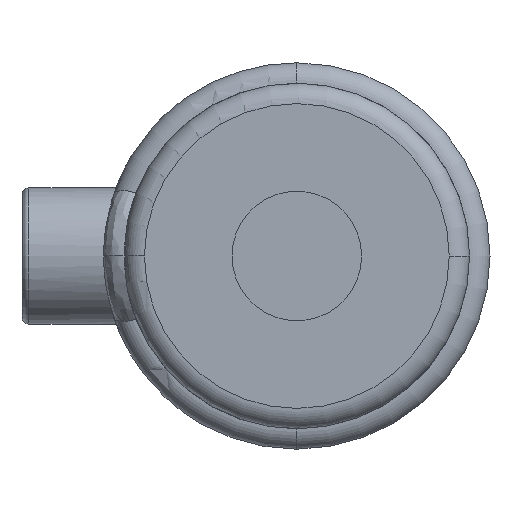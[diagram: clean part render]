
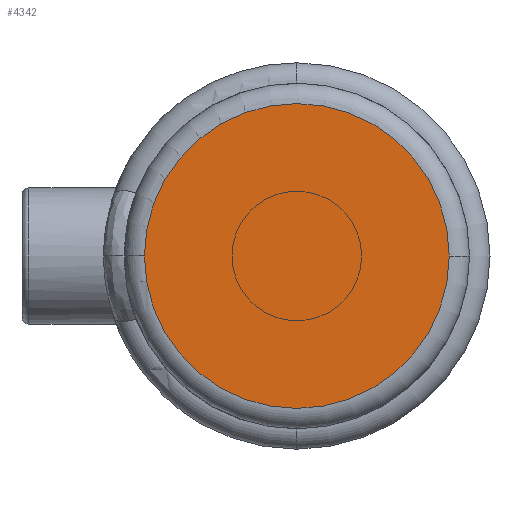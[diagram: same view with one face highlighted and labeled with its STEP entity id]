
A CAD part, left-side view. The second image highlights one B-rep face of the part: STEP entity #4342.
In plain terms, the highlighted planar face has unit normal (-1, 0, 0).
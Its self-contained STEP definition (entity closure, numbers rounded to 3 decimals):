
#144 = EDGE_LOOP ( 'NONE', ( #3143, #1036 ) ) ;
#213 = DIRECTION ( 'NONE',  ( -1., 0., 0. ) ) ;
#977 = EDGE_CURVE ( 'NONE', #4215, #3683, #2303, .T. ) ;
#1036 = ORIENTED_EDGE ( 'NONE', *, *, #977, .T. ) ;
#1313 = CARTESIAN_POINT ( 'NONE',  ( 0., 0., 0. ) ) ;
#1387 = CARTESIAN_POINT ( 'NONE',  ( 0., 0., 0. ) ) ;
#1645 = DIRECTION ( 'NONE',  ( 0., -1., 0. ) ) ;
#1957 = AXIS2_PLACEMENT_3D ( 'NONE', #1387, #2017, #2031 ) ;
#2017 = DIRECTION ( 'NONE',  ( -1., 0., 0. ) ) ;
#2031 = DIRECTION ( 'NONE',  ( 0., -1., 0. ) ) ;
#2303 = CIRCLE ( 'NONE', #1957, 22.4 ) ;
#2539 = DIRECTION ( 'NONE',  ( 0., -1., 0. ) ) ;
#2832 = CARTESIAN_POINT ( 'NONE',  ( 0., 22.4, 0. ) ) ;
#2892 = EDGE_CURVE ( 'NONE', #3683, #4215, #3589, .T. ) ;
#3143 = ORIENTED_EDGE ( 'NONE', *, *, #2892, .T. ) ;
#3193 = PLANE ( 'NONE',  #3391 ) ;
#3370 = FACE_OUTER_BOUND ( 'NONE', #144, .T. ) ;
#3391 = AXIS2_PLACEMENT_3D ( 'NONE', #3874, #213, #2539 ) ;
#3589 = CIRCLE ( 'NONE', #4185, 22.4 ) ;
#3650 = DIRECTION ( 'NONE',  ( -1., 0., 0. ) ) ;
#3683 = VERTEX_POINT ( 'NONE', #4161 ) ;
#3874 = CARTESIAN_POINT ( 'NONE',  ( 0., 0., 0. ) ) ;
#4161 = CARTESIAN_POINT ( 'NONE',  ( 0., -22.4, 0. ) ) ;
#4185 = AXIS2_PLACEMENT_3D ( 'NONE', #1313, #3650, #1645 ) ;
#4215 = VERTEX_POINT ( 'NONE', #2832 ) ;
#4342 = ADVANCED_FACE ( 'NONE', ( #3370 ), #3193, .T. ) ;
